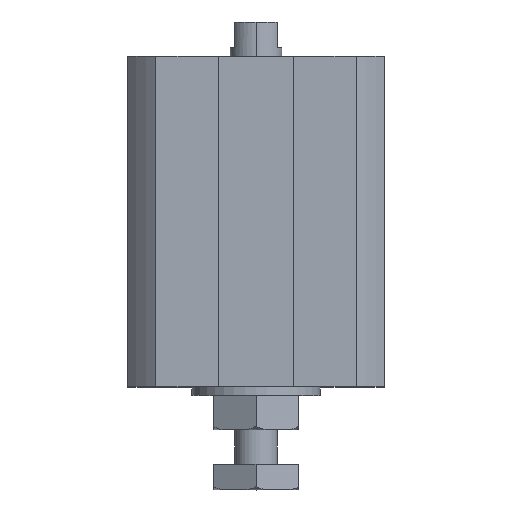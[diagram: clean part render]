
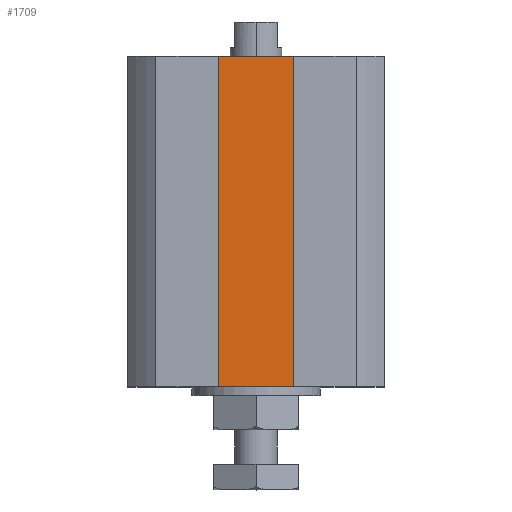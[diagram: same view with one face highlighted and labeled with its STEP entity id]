
A CAD part, top view. The second image highlights one B-rep face of the part: STEP entity #1709.
In plain terms, the highlighted planar face has unit normal (0, 0, 1).
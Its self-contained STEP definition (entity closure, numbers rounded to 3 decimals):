
#68 = CARTESIAN_POINT ( 'NONE',  ( -4.4, -38.5, 10. ) ) ;
#204 = CARTESIAN_POINT ( 'NONE',  ( -4.4, 0., 10. ) ) ;
#256 = EDGE_CURVE ( 'NONE', #1861, #2573, #1995, .T. ) ;
#262 = DIRECTION ( 'NONE',  ( 0., 0., 1. ) ) ;
#339 = DIRECTION ( 'NONE',  ( 1., 0., 0. ) ) ;
#450 = VECTOR ( 'NONE', #339, 1000. ) ;
#471 = CARTESIAN_POINT ( 'NONE',  ( 4.4, -38.5, 10. ) ) ;
#624 = EDGE_CURVE ( 'NONE', #843, #2517, #1631, .T. ) ;
#645 = VECTOR ( 'NONE', #2768, 1000. ) ;
#778 = AXIS2_PLACEMENT_3D ( 'NONE', #2871, #262, #1154 ) ;
#826 = LINE ( 'NONE', #1729, #3000 ) ;
#843 = VERTEX_POINT ( 'NONE', #1599 ) ;
#887 = VECTOR ( 'NONE', #2067, 1000. ) ;
#1095 = FACE_OUTER_BOUND ( 'NONE', #1428, .T. ) ;
#1154 = DIRECTION ( 'NONE',  ( 1., 0., 0. ) ) ;
#1209 = DIRECTION ( 'NONE',  ( 1., 0., 0. ) ) ;
#1275 = ORIENTED_EDGE ( 'NONE', *, *, #256, .T. ) ;
#1357 = ORIENTED_EDGE ( 'NONE', *, *, #1741, .T. ) ;
#1428 = EDGE_LOOP ( 'NONE', ( #3631, #2278, #1357, #1275 ) ) ;
#1599 = CARTESIAN_POINT ( 'NONE',  ( -4.4, -38.5, 10. ) ) ;
#1631 = LINE ( 'NONE', #68, #887 ) ;
#1709 = ADVANCED_FACE ( 'NONE', ( #1095 ), #2857, .T. ) ;
#1729 = CARTESIAN_POINT ( 'NONE',  ( 0., -38.5, 10. ) ) ;
#1741 = EDGE_CURVE ( 'NONE', #843, #1861, #826, .T. ) ;
#1861 = VERTEX_POINT ( 'NONE', #2027 ) ;
#1995 = LINE ( 'NONE', #471, #645 ) ;
#2027 = CARTESIAN_POINT ( 'NONE',  ( 4.4, -38.5, 10. ) ) ;
#2067 = DIRECTION ( 'NONE',  ( 0., 1., 0. ) ) ;
#2278 = ORIENTED_EDGE ( 'NONE', *, *, #624, .F. ) ;
#2517 = VERTEX_POINT ( 'NONE', #204 ) ;
#2573 = VERTEX_POINT ( 'NONE', #3428 ) ;
#2768 = DIRECTION ( 'NONE',  ( 0., 1., 0. ) ) ;
#2803 = EDGE_CURVE ( 'NONE', #2517, #2573, #3394, .T. ) ;
#2857 = PLANE ( 'NONE',  #778 ) ;
#2871 = CARTESIAN_POINT ( 'NONE',  ( 0., -38.5, 10. ) ) ;
#2930 = CARTESIAN_POINT ( 'NONE',  ( 0., 0., 10. ) ) ;
#3000 = VECTOR ( 'NONE', #1209, 1000. ) ;
#3394 = LINE ( 'NONE', #2930, #450 ) ;
#3428 = CARTESIAN_POINT ( 'NONE',  ( 4.4, 0., 10. ) ) ;
#3631 = ORIENTED_EDGE ( 'NONE', *, *, #2803, .F. ) ;
